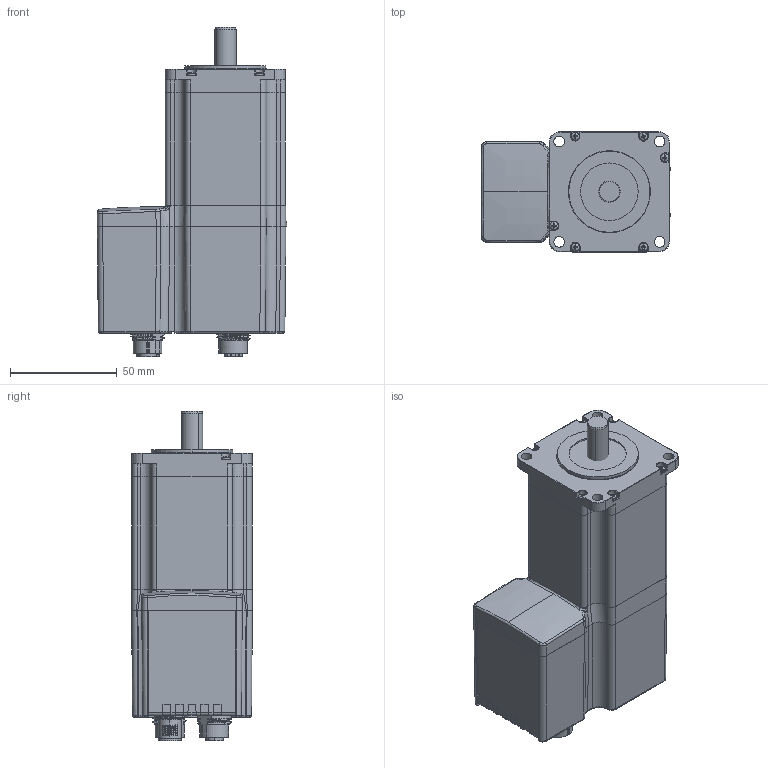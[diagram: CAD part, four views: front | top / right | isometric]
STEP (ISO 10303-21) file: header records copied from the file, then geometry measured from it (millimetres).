
FILE_DESCRIPTION (( 'STEP AP203' ), '1' );
FILE_NAME ('MIS232 Rear M12.STEP', '2017-06-01T03:06:02', ( '' ), ( '' ), 'SwSTEP 2.0', 'SolidWorks 2016', '' );
FILE_SCHEMA (( 'CONFIG_CONTROL_DESIGN' ));
Length unit declared in the file: millimetre
Products named in the file (13): M12_17P_FEMALE_CHASSISLong; Nema23 montado_F_ILong; MIS232 Rear M12; MM4100 V1_0 Rear Cover MIS23 G2 SOLID; Housing MIS23 G2 Housing R10 SOLID; O-ring_F_ILong; Part4^MIS23X Solid; pan head cross recess screw_iso_ISO 7045 - M2 x 3 - Z - 3N; MIS231 Stator SOLID; M12_4P_FEMALE_CHASSIS_ALTTYPELong; Front Cap MIS23X SOLID; M12_5P_MALE_CHASSISLong; Shaft SOLID
Assembly tree (17 placements, depth 3):
  MIS232 Rear M12
    Nema23 montado_F_ILong
      MIS231 Stator SOLID
      Front Cap MIS23X SOLID
      Shaft SOLID
    MM4100 V1_0 Rear Cover MIS23 G2 SOLID
    Housing MIS23 G2 Housing R10 SOLID
    O-ring_F_ILong
    pan head cross recess screw_iso_ISO 7045 - M2 x 3 - Z - 3N  x6
    M12_4P_FEMALE_CHASSIS_ALTTYPELong  x2
    M12_5P_MALE_CHASSISLong
    M12_17P_FEMALE_CHASSISLong
  Part4^MIS23X Solid
Bounding box: 88.82 x 56.67 x 154.7 mm (x, y, z)
Volume: 451829.5 mm3; surface area: 72622.4 mm2
Topology: 16 solids, 16 shells, 2517 faces, 6463 edges, 4056 vertices
Faces by surface type: plane 874, cylinder 734, bspline 330, torus 264, cone 243, sphere 72
Entity records: 76587 total; most frequent: CARTESIAN_POINT 33263, ORIENTED_EDGE 9064, DIRECTION 8358, EDGE_CURVE 4532, AXIS2_PLACEMENT_3D 3213, VERTEX_POINT 2874, EDGE_LOOP 1970, VECTOR 1932
